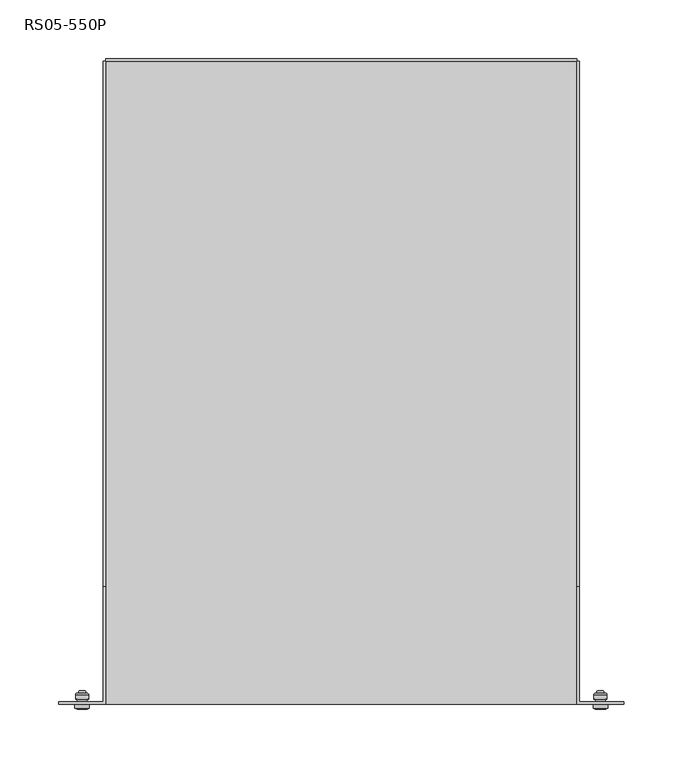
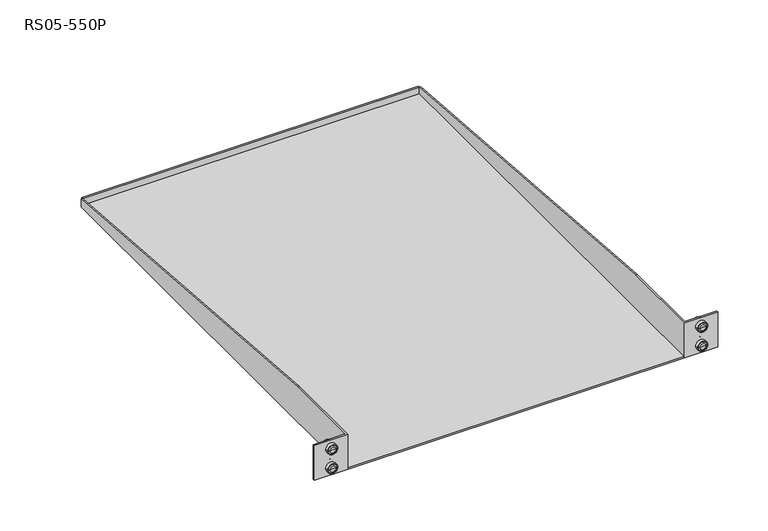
"""IFC4 building model written with IfcOpenShell, lengths in millimetres: proxy geometry, Полки консольные : RS05-550P."""

from ifc_helpers import new_model, si_unit, point, frame, origin, place, context, project, spatial, polyline, circle_curve, ellipse_curve, trimmed, outline, extrude, faceted_brep, source, transform, mapped, element, save
from ifc_brep_helpers import plane_surface, cylinder_surface, revolved_surface, advanced_brep


def rs05_550p_192c16dc(model_context):
    return source(origin(), model_context, "Body", "SolidModel", [
        advanced_brep(
        [(221.0, -279.3500066, 34.0), (217.5000052, -279.3500066, 34.0), (224.4999948, -279.3500066, 34.0), (223.9999986, -263.7499958, 34.0), (218.0000014, -263.7499958, 34.0), (221.0, -263.7499958, 34.0), (223.9999986, -265.7999933, 34.0), (218.0000014, -265.7999933, 34.0), (225.4999942, -265.7999933, 34.0), (216.5000058, -265.7999933, 34.0), (226.4999948, -266.7999994, 34.0), (215.5000052, -266.7999994, 34.0), (226.4999962, -270.7999994, 34.0), (215.5000038, -270.7999994, 34.0), (225.1733431, -272.9999959, 34.0), (216.8266569, -272.9999959, 34.0), (227.2500015, -275.0, 34.0), (214.7499985, -275.0, 34.0), (216.8266569, -275.0, 34.0), (225.1733431, -275.0, 34.0), (227.2500015, -278.4999996, 34.0), (214.7499985, -278.4999996, 34.0), (226.3781586, -278.4999996, 34.0), (215.6218414, -278.4999996, 34.0)],
        [
            (0, 1),
            (1, 2, circle_curve(frame((221.0, -279.3500066, 34.0), z_axis=(0.0, -1.0, 0.0), x_axis=(-1.0, 0.0, 0.0)), 3.4999948)),
            (2, 0),
            (2, 1, circle_curve(frame((221.0, -279.3500066, 34.0), z_axis=(0.0, -1.0, 0.0), x_axis=(-1.0, 0.0, 0.0)), 3.4999948)),
            (3, 4, circle_curve(frame((221.0, -263.7499958, 34.0), z_axis=(0.0, 1.0, 0.0), x_axis=(-1.0, 0.0, 0.0)), 2.9999986)),
            (4, 5),
            (5, 3),
            (4, 3, circle_curve(frame((221.0, -263.7499958, 34.0), z_axis=(0.0, 1.0, 0.0), x_axis=(-1.0, 0.0, 0.0)), 2.9999986)),
            (6, 7, circle_curve(frame((221.0, -265.7999933, 34.0), z_axis=(0.0, 1.0, 0.0), x_axis=(-1.0, 0.0, 0.0)), 2.9999986)),
            (7, 4),
            (3, 6),
            (7, 6, circle_curve(frame((221.0, -265.7999933, 34.0), z_axis=(0.0, 1.0, 0.0), x_axis=(-1.0, 0.0, 0.0)), 2.9999986)),
            (8, 9, circle_curve(frame((221.0, -265.7999933, 34.0), z_axis=(0.0, 1.0, 0.0), x_axis=(-1.0, 0.0, 0.0)), 4.4999942)),
            (9, 7),
            (6, 8),
            (9, 8, circle_curve(frame((221.0, -265.7999933, 34.0), z_axis=(0.0, 1.0, 0.0), x_axis=(-1.0, 0.0, 0.0)), 4.4999942)),
            (10, 11, circle_curve(frame((221.0, -266.7999994, 34.0), z_axis=(0.0, 1.0, 0.0), x_axis=(-1.0, 0.0, 0.0)), 5.4999948)),
            (11, 9, circle_curve(frame((216.5000052, -266.7999994, 34.0), z_axis=(0.0, 0.0, -1.0), x_axis=(1.0, 0.0, 0.0)), 1.0)),
            (8, 10, circle_curve(frame((225.4999948, -266.7999994, 34.0), z_axis=(0.0, 0.0, -1.0), x_axis=(-1.0, 0.0, 0.0)), 1.0)),
            (11, 10, circle_curve(frame((221.0, -266.7999994, 34.0), z_axis=(0.0, 1.0, 0.0), x_axis=(-1.0, 0.0, 0.0)), 5.4999948)),
            (12, 13, circle_curve(frame((221.0, -270.7999994, 34.0), z_axis=(0.0, 1.0, 0.0), x_axis=(-1.0, 0.0, 0.0)), 5.4999962)),
            (13, 11),
            (10, 12),
            (13, 12, circle_curve(frame((221.0, -270.7999994, 34.0), z_axis=(0.0, 1.0, 0.0), x_axis=(-1.0, 0.0, 0.0)), 5.4999962)),
            (14, 15, circle_curve(frame((221.0, -272.9999959, 34.0), z_axis=(0.0, 1.0, 0.0), x_axis=(-1.0, 0.0, 0.0)), 4.1733431)),
            (15, 13, circle_curve(frame((215.5000052, -272.2999994, 34.0), z_axis=(0.0, 0.0, 1.0), x_axis=(1.0, 0.0, 0.0)), 1.5)),
            (12, 14, circle_curve(frame((226.4999948, -272.2999994, 34.0), z_axis=(0.0, 0.0, 1.0), x_axis=(-1.0, 0.0, 0.0)), 1.5)),
            (15, 14, circle_curve(frame((221.0, -272.9999959, 34.0), z_axis=(0.0, 1.0, 0.0), x_axis=(-1.0, 0.0, 0.0)), 4.1733431)),
            (16, 17, circle_curve(frame((221.0, -275.0, 34.0), z_axis=(0.0, 1.0, 0.0), x_axis=(-1.0, 0.0, 0.0)), 6.2500015)),
            (17, 18),
            (18, 19, circle_curve(frame((221.0, -275.0, 34.0), z_axis=(0.0, -1.0, 0.0), x_axis=(-1.0, 0.0, 0.0)), 4.1733431)),
            (19, 16),
            (17, 16, circle_curve(frame((221.0, -275.0, 34.0), z_axis=(0.0, 1.0, 0.0), x_axis=(-1.0, 0.0, 0.0)), 6.2500015)),
            (19, 18, circle_curve(frame((221.0, -275.0, 34.0), z_axis=(0.0, -1.0, 0.0), x_axis=(-1.0, 0.0, 0.0)), 4.1733431)),
            (20, 21, circle_curve(frame((221.0, -278.4999996, 34.0), z_axis=(0.0, 1.0, 0.0), x_axis=(-1.0, 0.0, 0.0)), 6.2500015)),
            (21, 17),
            (16, 20),
            (21, 20, circle_curve(frame((221.0, -278.4999996, 34.0), z_axis=(0.0, 1.0, 0.0), x_axis=(-1.0, 0.0, 0.0)), 6.2500015)),
            (22, 23, circle_curve(frame((221.0, -278.4999996, 34.0), z_axis=(0.0, 1.0, 0.0), x_axis=(-1.0, 0.0, 0.0)), 5.3781586)),
            (23, 21),
            (20, 22),
            (23, 22, circle_curve(frame((221.0, -278.4999996, 34.0), z_axis=(0.0, 1.0, 0.0), x_axis=(-1.0, 0.0, 0.0)), 5.3781586)),
            (1, 23, circle_curve(frame((217.5000052, -276.8499994, 34.0), z_axis=(0.0, 0.0, -1.0), x_axis=(1.0, 0.0, 0.0)), 2.5)),
            (22, 2, circle_curve(frame((224.4999948, -276.8499994, 34.0), z_axis=(0.0, 0.0, -1.0), x_axis=(-1.0, 0.0, 0.0)), 2.5)),
            (18, 15),
            (14, 19),
        ],
        [
            plane_surface(frame((221.0, -279.3500066, 34.0), z_axis=(0.0, -1.0, 0.0), x_axis=(-1.0, 0.0, 0.0))),
            plane_surface(frame((221.0, -263.7499958, 34.0), z_axis=(0.0, 1.0, 0.0), x_axis=(-1.0, 0.0, 0.0))),
            cylinder_surface(frame((221.0, 1725.0, 34.0), z_axis=(0.0, -1.0, 0.0), x_axis=(-1.0, 0.0, 0.0)), 2.9999986),
            plane_surface(frame((221.0, -265.7999933, 34.0), z_axis=(0.0, 1.0, 0.0), x_axis=(-1.0, 0.0, 0.0))),
            revolved_surface(trimmed(ellipse_curve(frame((216.5000052, -266.7999994, 34.0), z_axis=(0.0, 0.0, 1.0), x_axis=(1.0, 0.0, 0.0)), 1.0, 1.0), [point((216.5000052, -265.7999994, 34.0))], [point((215.5000052, -266.7999994, 34.0))], True, "CARTESIAN"), (221.0, 1725.0, 34.0), (0.0, -1.0, 0.0)),
            cylinder_surface(frame((221.0, 1725.0, 34.0), z_axis=(0.0, -1.0, 0.0), x_axis=(-1.0, 0.0, 0.0)), 5.4999962),
            revolved_surface(trimmed(ellipse_curve(frame((215.5000052, -272.2999994, 34.0), z_axis=(0.0, 0.0, -1.0), x_axis=(1.0, 0.0, 0.0)), 1.5, 1.5), [point((215.5000038, -270.7999994, 34.0))], [point((216.8266569, -272.9999959, 34.0))], True, "CARTESIAN"), (221.0, 1725.0, 34.0), (0.0, -1.0, 0.0)),
            plane_surface(frame((221.0, -275.0, 34.0), z_axis=(0.0, 1.0, 0.0), x_axis=(-1.0, 0.0, 0.0))),
            cylinder_surface(frame((221.0, 1725.0, 34.0), z_axis=(0.0, -1.0, 0.0), x_axis=(-1.0, 0.0, 0.0)), 6.2500015),
            plane_surface(frame((221.0, -278.4999996, 34.0), z_axis=(0.0, -1.0, 0.0), x_axis=(-1.0, 0.0, 0.0))),
            revolved_surface(trimmed(ellipse_curve(frame((217.5000052, -276.8499994, 34.0), z_axis=(0.0, 0.0, 1.0), x_axis=(1.0, 0.0, 0.0)), 2.5, 2.5), [point((215.6218414, -278.4999996, 34.0))], [point((217.5000052, -279.3499994, 34.0))], True, "CARTESIAN"), (221.0, 1725.0, 34.0), (0.0, -1.0, 0.0)),
            cylinder_surface(frame((221.0, 1725.0, 34.0), z_axis=(0.0, -1.0, 0.0), x_axis=(-1.0, 0.0, 0.0)), 4.1733431),
        ],
        [
            (0, [[1, 2, 3]]),
            (0, [[-3, 4, -1]]),
            (1, [[5, 6, 7]]),
            (1, [[8, -7, -6]]),
            (2, [[9, 10, -5, 11]]),
            (2, [[12, -11, -8, -10]]),
            (3, [[13, 14, -9, 15]]),
            (3, [[16, -15, -12, -14]]),
            (4, [[17, 18, -13, 19]]),
            (4, [[20, -19, -16, -18]]),
            (5, [[21, 22, -17, 23]]),
            (5, [[24, -23, -20, -22]]),
            (6, [[25, 26, -21, 27]]),
            (6, [[28, -27, -24, -26]]),
            (7, [[29, 30, 31, 32]]),
            (7, [[33, -32, 34, -30]]),
            (8, [[35, 36, -29, 37]]),
            (8, [[38, -37, -33, -36]]),
            (9, [[39, 40, -35, 41]]),
            (9, [[42, -41, -38, -40]]),
            (10, [[-2, 43, -39, 44]]),
            (10, [[-4, -44, -42, -43]]),
            (11, [[-31, 45, -25, 46]]),
            (11, [[-34, -46, -28, -45]]),
        ],
    ),
        advanced_brep(
        [(-221.0, -279.3500066, 34.0), (-224.4999948, -279.3500066, 34.0), (-217.5000052, -279.3500066, 34.0), (-218.0000014, -263.7499958, 34.0), (-223.9999986, -263.7499958, 34.0), (-221.0, -263.7499958, 34.0), (-218.0000014, -265.7999933, 34.0), (-223.9999986, -265.7999933, 34.0), (-216.5000058, -265.7999933, 34.0), (-225.4999942, -265.7999933, 34.0), (-215.5000052, -266.7999994, 34.0), (-226.4999948, -266.7999994, 34.0), (-215.5000038, -270.7999994, 34.0), (-226.4999962, -270.7999994, 34.0), (-216.8266569, -272.9999959, 34.0), (-225.1733431, -272.9999959, 34.0), (-214.7499985, -275.0, 34.0), (-227.2500015, -275.0, 34.0), (-225.1733431, -275.0, 34.0), (-216.8266569, -275.0, 34.0), (-214.7499985, -278.4999996, 34.0), (-227.2500015, -278.4999996, 34.0), (-215.6218414, -278.4999996, 34.0), (-226.3781586, -278.4999996, 34.0)],
        [
            (0, 1),
            (1, 2, circle_curve(frame((-221.0, -279.3500066, 34.0), z_axis=(0.0, -1.0, 0.0), x_axis=(-1.0, 0.0, 0.0)), 3.4999948)),
            (2, 0),
            (2, 1, circle_curve(frame((-221.0, -279.3500066, 34.0), z_axis=(0.0, -1.0, 0.0), x_axis=(-1.0, 0.0, 0.0)), 3.4999948)),
            (3, 4, circle_curve(frame((-221.0, -263.7499958, 34.0), z_axis=(0.0, 1.0, 0.0), x_axis=(-1.0, 0.0, 0.0)), 2.9999986)),
            (4, 5),
            (5, 3),
            (4, 3, circle_curve(frame((-221.0, -263.7499958, 34.0), z_axis=(0.0, 1.0, 0.0), x_axis=(-1.0, 0.0, 0.0)), 2.9999986)),
            (6, 7, circle_curve(frame((-221.0, -265.7999933, 34.0), z_axis=(0.0, 1.0, 0.0), x_axis=(-1.0, 0.0, 0.0)), 2.9999986)),
            (7, 4),
            (3, 6),
            (7, 6, circle_curve(frame((-221.0, -265.7999933, 34.0), z_axis=(0.0, 1.0, 0.0), x_axis=(-1.0, 0.0, 0.0)), 2.9999986)),
            (8, 9, circle_curve(frame((-221.0, -265.7999933, 34.0), z_axis=(0.0, 1.0, 0.0), x_axis=(-1.0, 0.0, 0.0)), 4.4999942)),
            (9, 7),
            (6, 8),
            (9, 8, circle_curve(frame((-221.0, -265.7999933, 34.0), z_axis=(0.0, 1.0, 0.0), x_axis=(-1.0, 0.0, 0.0)), 4.4999942)),
            (10, 11, circle_curve(frame((-221.0, -266.7999994, 34.0), z_axis=(0.0, 1.0, 0.0), x_axis=(-1.0, 0.0, 0.0)), 5.4999948)),
            (11, 9, circle_curve(frame((-225.4999948, -266.7999994, 34.0), z_axis=(0.0, 0.0, -1.0), x_axis=(1.0, 0.0, 0.0)), 1.0)),
            (8, 10, circle_curve(frame((-216.5000052, -266.7999994, 34.0), z_axis=(0.0, 0.0, -1.0), x_axis=(-1.0, 0.0, 0.0)), 1.0)),
            (11, 10, circle_curve(frame((-221.0, -266.7999994, 34.0), z_axis=(0.0, 1.0, 0.0), x_axis=(-1.0, 0.0, 0.0)), 5.4999948)),
            (12, 13, circle_curve(frame((-221.0, -270.7999994, 34.0), z_axis=(0.0, 1.0, 0.0), x_axis=(-1.0, 0.0, 0.0)), 5.4999962)),
            (13, 11),
            (10, 12),
            (13, 12, circle_curve(frame((-221.0, -270.7999994, 34.0), z_axis=(0.0, 1.0, 0.0), x_axis=(-1.0, 0.0, 0.0)), 5.4999962)),
            (14, 15, circle_curve(frame((-221.0, -272.9999959, 34.0), z_axis=(0.0, 1.0, 0.0), x_axis=(-1.0, 0.0, 0.0)), 4.1733431)),
            (15, 13, circle_curve(frame((-226.4999948, -272.2999994, 34.0), z_axis=(0.0, 0.0, 1.0), x_axis=(1.0, 0.0, 0.0)), 1.5)),
            (12, 14, circle_curve(frame((-215.5000052, -272.2999994, 34.0), z_axis=(0.0, 0.0, 1.0), x_axis=(-1.0, 0.0, 0.0)), 1.5)),
            (15, 14, circle_curve(frame((-221.0, -272.9999959, 34.0), z_axis=(0.0, 1.0, 0.0), x_axis=(-1.0, 0.0, 0.0)), 4.1733431)),
            (16, 17, circle_curve(frame((-221.0, -275.0, 34.0), z_axis=(0.0, 1.0, 0.0), x_axis=(-1.0, 0.0, 0.0)), 6.2500015)),
            (17, 18),
            (18, 19, circle_curve(frame((-221.0, -275.0, 34.0), z_axis=(0.0, -1.0, 0.0), x_axis=(-1.0, 0.0, 0.0)), 4.1733431)),
            (19, 16),
            (17, 16, circle_curve(frame((-221.0, -275.0, 34.0), z_axis=(0.0, 1.0, 0.0), x_axis=(-1.0, 0.0, 0.0)), 6.2500015)),
            (19, 18, circle_curve(frame((-221.0, -275.0, 34.0), z_axis=(0.0, -1.0, 0.0), x_axis=(-1.0, 0.0, 0.0)), 4.1733431)),
            (20, 21, circle_curve(frame((-221.0, -278.4999996, 34.0), z_axis=(0.0, 1.0, 0.0), x_axis=(-1.0, 0.0, 0.0)), 6.2500015)),
            (21, 17),
            (16, 20),
            (21, 20, circle_curve(frame((-221.0, -278.4999996, 34.0), z_axis=(0.0, 1.0, 0.0), x_axis=(-1.0, 0.0, 0.0)), 6.2500015)),
            (22, 23, circle_curve(frame((-221.0, -278.4999996, 34.0), z_axis=(0.0, 1.0, 0.0), x_axis=(-1.0, 0.0, 0.0)), 5.3781586)),
            (23, 21),
            (20, 22),
            (23, 22, circle_curve(frame((-221.0, -278.4999996, 34.0), z_axis=(0.0, 1.0, 0.0), x_axis=(-1.0, 0.0, 0.0)), 5.3781586)),
            (1, 23, circle_curve(frame((-224.4999948, -276.8499994, 34.0), z_axis=(0.0, 0.0, -1.0), x_axis=(1.0, 0.0, 0.0)), 2.5)),
            (22, 2, circle_curve(frame((-217.5000052, -276.8499994, 34.0), z_axis=(0.0, 0.0, -1.0), x_axis=(-1.0, 0.0, 0.0)), 2.5)),
            (18, 15),
            (14, 19),
        ],
        [
            plane_surface(frame((-221.0, -279.3500066, 34.0), z_axis=(0.0, -1.0, 0.0), x_axis=(-1.0, 0.0, 0.0))),
            plane_surface(frame((-221.0, -263.7499958, 34.0), z_axis=(0.0, 1.0, 0.0), x_axis=(-1.0, 0.0, 0.0))),
            cylinder_surface(frame((-221.0, 1725.0, 34.0), z_axis=(0.0, -1.0, 0.0), x_axis=(-1.0, 0.0, 0.0)), 2.9999986),
            plane_surface(frame((-221.0, -265.7999933, 34.0), z_axis=(0.0, 1.0, 0.0), x_axis=(-1.0, 0.0, 0.0))),
            revolved_surface(trimmed(ellipse_curve(frame((-225.4999948, -266.7999994, 34.0), z_axis=(0.0, 0.0, 1.0), x_axis=(1.0, 0.0, 0.0)), 1.0, 1.0), [point((-225.4999948, -265.7999994, 34.0))], [point((-226.4999948, -266.7999994, 34.0))], True, "CARTESIAN"), (-221.0, 1725.0, 34.0), (0.0, -1.0, 0.0)),
            cylinder_surface(frame((-221.0, 1725.0, 34.0), z_axis=(0.0, -1.0, 0.0), x_axis=(-1.0, 0.0, 0.0)), 5.4999962),
            revolved_surface(trimmed(ellipse_curve(frame((-226.4999948, -272.2999994, 34.0), z_axis=(0.0, 0.0, -1.0), x_axis=(1.0, 0.0, 0.0)), 1.5, 1.5), [point((-226.4999962, -270.7999994, 34.0))], [point((-225.1733431, -272.9999959, 34.0))], True, "CARTESIAN"), (-221.0, 1725.0, 34.0), (0.0, -1.0, 0.0)),
            plane_surface(frame((-221.0, -275.0, 34.0), z_axis=(0.0, 1.0, 0.0), x_axis=(-1.0, 0.0, 0.0))),
            cylinder_surface(frame((-221.0, 1725.0, 34.0), z_axis=(0.0, -1.0, 0.0), x_axis=(-1.0, 0.0, 0.0)), 6.2500015),
            plane_surface(frame((-221.0, -278.4999996, 34.0), z_axis=(0.0, -1.0, 0.0), x_axis=(-1.0, 0.0, 0.0))),
            revolved_surface(trimmed(ellipse_curve(frame((-224.4999948, -276.8499994, 34.0), z_axis=(0.0, 0.0, 1.0), x_axis=(1.0, 0.0, 0.0)), 2.5, 2.5), [point((-226.3781586, -278.4999996, 34.0))], [point((-224.4999948, -279.3499994, 34.0))], True, "CARTESIAN"), (-221.0, 1725.0, 34.0), (0.0, -1.0, 0.0)),
            cylinder_surface(frame((-221.0, 1725.0, 34.0), z_axis=(0.0, -1.0, 0.0), x_axis=(-1.0, 0.0, 0.0)), 4.1733431),
        ],
        [
            (0, [[1, 2, 3]]),
            (0, [[-3, 4, -1]]),
            (1, [[5, 6, 7]]),
            (1, [[8, -7, -6]]),
            (2, [[9, 10, -5, 11]]),
            (2, [[12, -11, -8, -10]]),
            (3, [[13, 14, -9, 15]]),
            (3, [[16, -15, -12, -14]]),
            (4, [[17, 18, -13, 19]]),
            (4, [[20, -19, -16, -18]]),
            (5, [[21, 22, -17, 23]]),
            (5, [[24, -23, -20, -22]]),
            (6, [[25, 26, -21, 27]]),
            (6, [[28, -27, -24, -26]]),
            (7, [[29, 30, 31, 32]]),
            (7, [[33, -32, 34, -30]]),
            (8, [[35, 36, -29, 37]]),
            (8, [[38, -37, -33, -36]]),
            (9, [[39, 40, -35, 41]]),
            (9, [[42, -41, -38, -40]]),
            (10, [[-2, 43, -39, 44]]),
            (10, [[-4, -44, -42, -43]]),
            (11, [[-31, 45, -25, 46]]),
            (11, [[-34, -46, -28, -45]]),
        ],
    ),
        advanced_brep(
        [(221.0, -279.3500066, 10.0), (217.5000052, -279.3500066, 10.0), (224.4999948, -279.3500066, 10.0), (223.9999986, -263.7499958, 10.0), (218.0000014, -263.7499958, 10.0), (221.0, -263.7499958, 10.0), (223.9999986, -265.7999933, 10.0), (218.0000014, -265.7999933, 10.0), (225.4999942, -265.7999933, 10.0), (216.5000058, -265.7999933, 10.0), (226.4999948, -266.7999994, 10.0), (215.5000052, -266.7999994, 10.0), (226.4999962, -270.7999994, 10.0), (215.5000038, -270.7999994, 10.0), (225.1733431, -272.9999959, 10.0), (216.8266569, -272.9999959, 10.0), (227.2500015, -275.0, 10.0), (214.7499985, -275.0, 10.0), (216.8266569, -275.0, 10.0), (225.1733431, -275.0, 10.0), (227.2500015, -278.4999996, 10.0), (214.7499985, -278.4999996, 10.0), (226.3781586, -278.4999996, 10.0), (215.6218414, -278.4999996, 10.0)],
        [
            (0, 1),
            (1, 2, circle_curve(frame((221.0, -279.3500066, 10.0), z_axis=(0.0, -1.0, 0.0), x_axis=(-1.0, 0.0, 0.0)), 3.4999948)),
            (2, 0),
            (2, 1, circle_curve(frame((221.0, -279.3500066, 10.0), z_axis=(0.0, -1.0, 0.0), x_axis=(-1.0, 0.0, 0.0)), 3.4999948)),
            (3, 4, circle_curve(frame((221.0, -263.7499958, 10.0), z_axis=(0.0, 1.0, 0.0), x_axis=(-1.0, 0.0, 0.0)), 2.9999986)),
            (4, 5),
            (5, 3),
            (4, 3, circle_curve(frame((221.0, -263.7499958, 10.0), z_axis=(0.0, 1.0, 0.0), x_axis=(-1.0, 0.0, 0.0)), 2.9999986)),
            (6, 7, circle_curve(frame((221.0, -265.7999933, 10.0), z_axis=(0.0, 1.0, 0.0), x_axis=(-1.0, 0.0, 0.0)), 2.9999986)),
            (7, 4),
            (3, 6),
            (7, 6, circle_curve(frame((221.0, -265.7999933, 10.0), z_axis=(0.0, 1.0, 0.0), x_axis=(-1.0, 0.0, 0.0)), 2.9999986)),
            (8, 9, circle_curve(frame((221.0, -265.7999933, 10.0), z_axis=(0.0, 1.0, 0.0), x_axis=(-1.0, 0.0, 0.0)), 4.4999942)),
            (9, 7),
            (6, 8),
            (9, 8, circle_curve(frame((221.0, -265.7999933, 10.0), z_axis=(0.0, 1.0, 0.0), x_axis=(-1.0, 0.0, 0.0)), 4.4999942)),
            (10, 11, circle_curve(frame((221.0, -266.7999994, 10.0), z_axis=(0.0, 1.0, 0.0), x_axis=(-1.0, 0.0, 0.0)), 5.4999948)),
            (11, 9, circle_curve(frame((216.5000052, -266.7999994, 10.0), z_axis=(0.0, 0.0, -1.0), x_axis=(1.0, 0.0, 0.0)), 1.0)),
            (8, 10, circle_curve(frame((225.4999948, -266.7999994, 10.0), z_axis=(0.0, 0.0, -1.0), x_axis=(-1.0, 0.0, 0.0)), 1.0)),
            (11, 10, circle_curve(frame((221.0, -266.7999994, 10.0), z_axis=(0.0, 1.0, 0.0), x_axis=(-1.0, 0.0, 0.0)), 5.4999948)),
            (12, 13, circle_curve(frame((221.0, -270.7999994, 10.0), z_axis=(0.0, 1.0, 0.0), x_axis=(-1.0, 0.0, 0.0)), 5.4999962)),
            (13, 11),
            (10, 12),
            (13, 12, circle_curve(frame((221.0, -270.7999994, 10.0), z_axis=(0.0, 1.0, 0.0), x_axis=(-1.0, 0.0, 0.0)), 5.4999962)),
            (14, 15, circle_curve(frame((221.0, -272.9999959, 10.0), z_axis=(0.0, 1.0, 0.0), x_axis=(-1.0, 0.0, 0.0)), 4.1733431)),
            (15, 13, circle_curve(frame((215.5000052, -272.2999994, 10.0), z_axis=(0.0, 0.0, 1.0), x_axis=(1.0, 0.0, 0.0)), 1.5)),
            (12, 14, circle_curve(frame((226.4999948, -272.2999994, 10.0), z_axis=(0.0, 0.0, 1.0), x_axis=(-1.0, 0.0, 0.0)), 1.5)),
            (15, 14, circle_curve(frame((221.0, -272.9999959, 10.0), z_axis=(0.0, 1.0, 0.0), x_axis=(-1.0, 0.0, 0.0)), 4.1733431)),
            (16, 17, circle_curve(frame((221.0, -275.0, 10.0), z_axis=(0.0, 1.0, 0.0), x_axis=(-1.0, 0.0, 0.0)), 6.2500015)),
            (17, 18),
            (18, 19, circle_curve(frame((221.0, -275.0, 10.0), z_axis=(0.0, -1.0, 0.0), x_axis=(-1.0, 0.0, 0.0)), 4.1733431)),
            (19, 16),
            (17, 16, circle_curve(frame((221.0, -275.0, 10.0), z_axis=(0.0, 1.0, 0.0), x_axis=(-1.0, 0.0, 0.0)), 6.2500015)),
            (19, 18, circle_curve(frame((221.0, -275.0, 10.0), z_axis=(0.0, -1.0, 0.0), x_axis=(-1.0, 0.0, 0.0)), 4.1733431)),
            (20, 21, circle_curve(frame((221.0, -278.4999996, 10.0), z_axis=(0.0, 1.0, 0.0), x_axis=(-1.0, 0.0, 0.0)), 6.2500015)),
            (21, 17),
            (16, 20),
            (21, 20, circle_curve(frame((221.0, -278.4999996, 10.0), z_axis=(0.0, 1.0, 0.0), x_axis=(-1.0, 0.0, 0.0)), 6.2500015)),
            (22, 23, circle_curve(frame((221.0, -278.4999996, 10.0), z_axis=(0.0, 1.0, 0.0), x_axis=(-1.0, 0.0, 0.0)), 5.3781586)),
            (23, 21),
            (20, 22),
            (23, 22, circle_curve(frame((221.0, -278.4999996, 10.0), z_axis=(0.0, 1.0, 0.0), x_axis=(-1.0, 0.0, 0.0)), 5.3781586)),
            (1, 23, circle_curve(frame((217.5000052, -276.8499994, 10.0), z_axis=(0.0, 0.0, -1.0), x_axis=(1.0, 0.0, 0.0)), 2.5)),
            (22, 2, circle_curve(frame((224.4999948, -276.8499994, 10.0), z_axis=(0.0, 0.0, -1.0), x_axis=(-1.0, 0.0, 0.0)), 2.5)),
            (18, 15),
            (14, 19),
        ],
        [
            plane_surface(frame((221.0, -279.3500066, 10.0), z_axis=(0.0, -1.0, 0.0), x_axis=(-1.0, 0.0, 0.0))),
            plane_surface(frame((221.0, -263.7499958, 10.0), z_axis=(0.0, 1.0, 0.0), x_axis=(-1.0, 0.0, 0.0))),
            cylinder_surface(frame((221.0, 1725.0, 10.0), z_axis=(0.0, -1.0, 0.0), x_axis=(-1.0, 0.0, 0.0)), 2.9999986),
            plane_surface(frame((221.0, -265.7999933, 10.0), z_axis=(0.0, 1.0, 0.0), x_axis=(-1.0, 0.0, 0.0))),
            revolved_surface(trimmed(ellipse_curve(frame((216.5000052, -266.7999994, 10.0), z_axis=(0.0, 0.0, 1.0), x_axis=(1.0, 0.0, 0.0)), 1.0, 1.0), [point((216.5000052, -265.7999994, 10.0))], [point((215.5000052, -266.7999994, 10.0))], True, "CARTESIAN"), (221.0, 1725.0, 10.0), (0.0, -1.0, 0.0)),
            cylinder_surface(frame((221.0, 1725.0, 10.0), z_axis=(0.0, -1.0, 0.0), x_axis=(-1.0, 0.0, 0.0)), 5.4999962),
            revolved_surface(trimmed(ellipse_curve(frame((215.5000052, -272.2999994, 10.0), z_axis=(0.0, 0.0, -1.0), x_axis=(1.0, 0.0, 0.0)), 1.5, 1.5), [point((215.5000038, -270.7999994, 10.0))], [point((216.8266569, -272.9999959, 10.0))], True, "CARTESIAN"), (221.0, 1725.0, 10.0), (0.0, -1.0, 0.0)),
            plane_surface(frame((221.0, -275.0, 10.0), z_axis=(0.0, 1.0, 0.0), x_axis=(-1.0, 0.0, 0.0))),
            cylinder_surface(frame((221.0, 1725.0, 10.0), z_axis=(0.0, -1.0, 0.0), x_axis=(-1.0, 0.0, 0.0)), 6.2500015),
            plane_surface(frame((221.0, -278.4999996, 10.0), z_axis=(0.0, -1.0, 0.0), x_axis=(-1.0, 0.0, 0.0))),
            revolved_surface(trimmed(ellipse_curve(frame((217.5000052, -276.8499994, 10.0), z_axis=(0.0, 0.0, 1.0), x_axis=(1.0, 0.0, 0.0)), 2.5, 2.5), [point((215.6218414, -278.4999996, 10.0))], [point((217.5000052, -279.3499994, 10.0))], True, "CARTESIAN"), (221.0, 1725.0, 10.0), (0.0, -1.0, 0.0)),
            cylinder_surface(frame((221.0, 1725.0, 10.0), z_axis=(0.0, -1.0, 0.0), x_axis=(-1.0, 0.0, 0.0)), 4.1733431),
        ],
        [
            (0, [[1, 2, 3]]),
            (0, [[-3, 4, -1]]),
            (1, [[5, 6, 7]]),
            (1, [[8, -7, -6]]),
            (2, [[9, 10, -5, 11]]),
            (2, [[12, -11, -8, -10]]),
            (3, [[13, 14, -9, 15]]),
            (3, [[16, -15, -12, -14]]),
            (4, [[17, 18, -13, 19]]),
            (4, [[20, -19, -16, -18]]),
            (5, [[21, 22, -17, 23]]),
            (5, [[24, -23, -20, -22]]),
            (6, [[25, 26, -21, 27]]),
            (6, [[28, -27, -24, -26]]),
            (7, [[29, 30, 31, 32]]),
            (7, [[33, -32, 34, -30]]),
            (8, [[35, 36, -29, 37]]),
            (8, [[38, -37, -33, -36]]),
            (9, [[39, 40, -35, 41]]),
            (9, [[42, -41, -38, -40]]),
            (10, [[-2, 43, -39, 44]]),
            (10, [[-4, -44, -42, -43]]),
            (11, [[-31, 45, -25, 46]]),
            (11, [[-34, -46, -28, -45]]),
        ],
    ),
        advanced_brep(
        [(-221.0, -279.3500066, 10.0), (-224.4999948, -279.3500066, 10.0), (-217.5000052, -279.3500066, 10.0), (-218.0000014, -263.7499958, 10.0), (-223.9999986, -263.7499958, 10.0), (-221.0, -263.7499958, 10.0), (-218.0000014, -265.7999933, 10.0), (-223.9999986, -265.7999933, 10.0), (-216.5000058, -265.7999933, 10.0), (-225.4999942, -265.7999933, 10.0), (-215.5000052, -266.7999994, 10.0), (-226.4999948, -266.7999994, 10.0), (-215.5000038, -270.7999994, 10.0), (-226.4999962, -270.7999994, 10.0), (-216.8266569, -272.9999959, 10.0), (-225.1733431, -272.9999959, 10.0), (-214.7499985, -275.0, 10.0), (-227.2500015, -275.0, 10.0), (-225.1733431, -275.0, 10.0), (-216.8266569, -275.0, 10.0), (-214.7499985, -278.4999996, 10.0), (-227.2500015, -278.4999996, 10.0), (-215.6218414, -278.4999996, 10.0), (-226.3781586, -278.4999996, 10.0)],
        [
            (0, 1),
            (1, 2, circle_curve(frame((-221.0, -279.3500066, 10.0), z_axis=(0.0, -1.0, 0.0), x_axis=(-1.0, 0.0, 0.0)), 3.4999948)),
            (2, 0),
            (2, 1, circle_curve(frame((-221.0, -279.3500066, 10.0), z_axis=(0.0, -1.0, 0.0), x_axis=(-1.0, 0.0, 0.0)), 3.4999948)),
            (3, 4, circle_curve(frame((-221.0, -263.7499958, 10.0), z_axis=(0.0, 1.0, 0.0), x_axis=(-1.0, 0.0, 0.0)), 2.9999986)),
            (4, 5),
            (5, 3),
            (4, 3, circle_curve(frame((-221.0, -263.7499958, 10.0), z_axis=(0.0, 1.0, 0.0), x_axis=(-1.0, 0.0, 0.0)), 2.9999986)),
            (6, 7, circle_curve(frame((-221.0, -265.7999933, 10.0), z_axis=(0.0, 1.0, 0.0), x_axis=(-1.0, 0.0, 0.0)), 2.9999986)),
            (7, 4),
            (3, 6),
            (7, 6, circle_curve(frame((-221.0, -265.7999933, 10.0), z_axis=(0.0, 1.0, 0.0), x_axis=(-1.0, 0.0, 0.0)), 2.9999986)),
            (8, 9, circle_curve(frame((-221.0, -265.7999933, 10.0), z_axis=(0.0, 1.0, 0.0), x_axis=(-1.0, 0.0, 0.0)), 4.4999942)),
            (9, 7),
            (6, 8),
            (9, 8, circle_curve(frame((-221.0, -265.7999933, 10.0), z_axis=(0.0, 1.0, 0.0), x_axis=(-1.0, 0.0, 0.0)), 4.4999942)),
            (10, 11, circle_curve(frame((-221.0, -266.7999994, 10.0), z_axis=(0.0, 1.0, 0.0), x_axis=(-1.0, 0.0, 0.0)), 5.4999948)),
            (11, 9, circle_curve(frame((-225.4999948, -266.7999994, 10.0), z_axis=(0.0, 0.0, -1.0), x_axis=(1.0, 0.0, 0.0)), 1.0)),
            (8, 10, circle_curve(frame((-216.5000052, -266.7999994, 10.0), z_axis=(0.0, 0.0, -1.0), x_axis=(-1.0, 0.0, 0.0)), 1.0)),
            (11, 10, circle_curve(frame((-221.0, -266.7999994, 10.0), z_axis=(0.0, 1.0, 0.0), x_axis=(-1.0, 0.0, 0.0)), 5.4999948)),
            (12, 13, circle_curve(frame((-221.0, -270.7999994, 10.0), z_axis=(0.0, 1.0, 0.0), x_axis=(-1.0, 0.0, 0.0)), 5.4999962)),
            (13, 11),
            (10, 12),
            (13, 12, circle_curve(frame((-221.0, -270.7999994, 10.0), z_axis=(0.0, 1.0, 0.0), x_axis=(-1.0, 0.0, 0.0)), 5.4999962)),
            (14, 15, circle_curve(frame((-221.0, -272.9999959, 10.0), z_axis=(0.0, 1.0, 0.0), x_axis=(-1.0, 0.0, 0.0)), 4.1733431)),
            (15, 13, circle_curve(frame((-226.4999948, -272.2999994, 10.0), z_axis=(0.0, 0.0, 1.0), x_axis=(1.0, 0.0, 0.0)), 1.5)),
            (12, 14, circle_curve(frame((-215.5000052, -272.2999994, 10.0), z_axis=(0.0, 0.0, 1.0), x_axis=(-1.0, 0.0, 0.0)), 1.5)),
            (15, 14, circle_curve(frame((-221.0, -272.9999959, 10.0), z_axis=(0.0, 1.0, 0.0), x_axis=(-1.0, 0.0, 0.0)), 4.1733431)),
            (16, 17, circle_curve(frame((-221.0, -275.0, 10.0), z_axis=(0.0, 1.0, 0.0), x_axis=(-1.0, 0.0, 0.0)), 6.2500015)),
            (17, 18),
            (18, 19, circle_curve(frame((-221.0, -275.0, 10.0), z_axis=(0.0, -1.0, 0.0), x_axis=(-1.0, 0.0, 0.0)), 4.1733431)),
            (19, 16),
            (17, 16, circle_curve(frame((-221.0, -275.0, 10.0), z_axis=(0.0, 1.0, 0.0), x_axis=(-1.0, 0.0, 0.0)), 6.2500015)),
            (19, 18, circle_curve(frame((-221.0, -275.0, 10.0), z_axis=(0.0, -1.0, 0.0), x_axis=(-1.0, 0.0, 0.0)), 4.1733431)),
            (20, 21, circle_curve(frame((-221.0, -278.4999996, 10.0), z_axis=(0.0, 1.0, 0.0), x_axis=(-1.0, 0.0, 0.0)), 6.2500015)),
            (21, 17),
            (16, 20),
            (21, 20, circle_curve(frame((-221.0, -278.4999996, 10.0), z_axis=(0.0, 1.0, 0.0), x_axis=(-1.0, 0.0, 0.0)), 6.2500015)),
            (22, 23, circle_curve(frame((-221.0, -278.4999996, 10.0), z_axis=(0.0, 1.0, 0.0), x_axis=(-1.0, 0.0, 0.0)), 5.3781586)),
            (23, 21),
            (20, 22),
            (23, 22, circle_curve(frame((-221.0, -278.4999996, 10.0), z_axis=(0.0, 1.0, 0.0), x_axis=(-1.0, 0.0, 0.0)), 5.3781586)),
            (1, 23, circle_curve(frame((-224.4999948, -276.8499994, 10.0), z_axis=(0.0, 0.0, -1.0), x_axis=(1.0, 0.0, 0.0)), 2.5)),
            (22, 2, circle_curve(frame((-217.5000052, -276.8499994, 10.0), z_axis=(0.0, 0.0, -1.0), x_axis=(-1.0, 0.0, 0.0)), 2.5)),
            (18, 15),
            (14, 19),
        ],
        [
            plane_surface(frame((-221.0, -279.3500066, 10.0), z_axis=(0.0, -1.0, 0.0), x_axis=(-1.0, 0.0, 0.0))),
            plane_surface(frame((-221.0, -263.7499958, 10.0), z_axis=(0.0, 1.0, 0.0), x_axis=(-1.0, 0.0, 0.0))),
            cylinder_surface(frame((-221.0, 1725.0, 10.0), z_axis=(0.0, -1.0, 0.0), x_axis=(-1.0, 0.0, 0.0)), 2.9999986),
            plane_surface(frame((-221.0, -265.7999933, 10.0), z_axis=(0.0, 1.0, 0.0), x_axis=(-1.0, 0.0, 0.0))),
            revolved_surface(trimmed(ellipse_curve(frame((-225.4999948, -266.7999994, 10.0), z_axis=(0.0, 0.0, 1.0), x_axis=(1.0, 0.0, 0.0)), 1.0, 1.0), [point((-225.4999948, -265.7999994, 10.0))], [point((-226.4999948, -266.7999994, 10.0))], True, "CARTESIAN"), (-221.0, 1725.0, 10.0), (0.0, -1.0, 0.0)),
            cylinder_surface(frame((-221.0, 1725.0, 10.0), z_axis=(0.0, -1.0, 0.0), x_axis=(-1.0, 0.0, 0.0)), 5.4999962),
            revolved_surface(trimmed(ellipse_curve(frame((-226.4999948, -272.2999994, 10.0), z_axis=(0.0, 0.0, -1.0), x_axis=(1.0, 0.0, 0.0)), 1.5, 1.5), [point((-226.4999962, -270.7999994, 10.0))], [point((-225.1733431, -272.9999959, 10.0))], True, "CARTESIAN"), (-221.0, 1725.0, 10.0), (0.0, -1.0, 0.0)),
            plane_surface(frame((-221.0, -275.0, 10.0), z_axis=(0.0, 1.0, 0.0), x_axis=(-1.0, 0.0, 0.0))),
            cylinder_surface(frame((-221.0, 1725.0, 10.0), z_axis=(0.0, -1.0, 0.0), x_axis=(-1.0, 0.0, 0.0)), 6.2500015),
            plane_surface(frame((-221.0, -278.4999996, 10.0), z_axis=(0.0, -1.0, 0.0), x_axis=(-1.0, 0.0, 0.0))),
            revolved_surface(trimmed(ellipse_curve(frame((-224.4999948, -276.8499994, 10.0), z_axis=(0.0, 0.0, 1.0), x_axis=(1.0, 0.0, 0.0)), 2.5, 2.5), [point((-226.3781586, -278.4999996, 10.0))], [point((-224.4999948, -279.3499994, 10.0))], True, "CARTESIAN"), (-221.0, 1725.0, 10.0), (0.0, -1.0, 0.0)),
            cylinder_surface(frame((-221.0, 1725.0, 10.0), z_axis=(0.0, -1.0, 0.0), x_axis=(-1.0, 0.0, 0.0)), 4.1733431),
        ],
        [
            (0, [[1, 2, 3]]),
            (0, [[-3, 4, -1]]),
            (1, [[5, 6, 7]]),
            (1, [[8, -7, -6]]),
            (2, [[9, 10, -5, 11]]),
            (2, [[12, -11, -8, -10]]),
            (3, [[13, 14, -9, 15]]),
            (3, [[16, -15, -12, -14]]),
            (4, [[17, 18, -13, 19]]),
            (4, [[20, -19, -16, -18]]),
            (5, [[21, 22, -17, 23]]),
            (5, [[24, -23, -20, -22]]),
            (6, [[25, 26, -21, 27]]),
            (6, [[28, -27, -24, -26]]),
            (7, [[29, 30, 31, 32]]),
            (7, [[33, -32, 34, -30]]),
            (8, [[35, 36, -29, 37]]),
            (8, [[38, -37, -33, -36]]),
            (9, [[39, 40, -35, 41]]),
            (9, [[42, -41, -38, -40]]),
            (10, [[-2, 43, -39, 44]]),
            (10, [[-4, -44, -42, -43]]),
            (11, [[-31, 45, -25, 46]]),
            (11, [[-34, -46, -28, -45]]),
        ],
    ),
        faceted_brep([(-201.0, 273.0, 0.0), (-201.0, 273.0, 10.0), (-201.0, -175.0, 44.0), (-201.0, -275.0, 44.0), (-201.0, -275.0, 0.0), (-203.0, -175.0, 44.0), (-203.0, 273.0, 10.0), (-203.0, 273.0, 0.0), (-203.0, -273.0, 0.0), (-203.0, -273.0, 44.0), (-241.0, -273.0, 44.0), (-241.0, -275.0, 44.0), (-241.0, -275.0, 0.0), (-241.0, -273.0, 0.0)], [[[0, 1, 2, 3, 4]], [[5, 6, 7, 8, 9]], [[1, 0, 7, 6]], [[3, 2, 5, 9, 10, 11]], [[4, 3, 11, 12]], [[0, 4, 12, 13, 8, 7]], [[2, 1, 6, 5]], [[10, 9, 8, 13]], [[11, 10, 13, 12]]]),
        faceted_brep([(241.0, -273.0, 44.0), (203.0, -273.0, 44.0), (203.0, -175.0, 44.0), (201.0, -175.0, 44.0), (201.0, -275.0, 44.0), (241.0, -275.0, 44.0), (241.0, -273.0, 0.0), (241.0, -275.0, 0.0), (201.0, -275.0, 0.0), (201.0, 273.0, 0.0), (203.0, 273.0, 0.0), (203.0, -273.0, 0.0), (201.0, 273.0, 10.0), (203.0, 273.0, 10.0)], [[[0, 1, 2, 3, 4, 5]], [[6, 7, 8, 9, 10, 11]], [[1, 0, 6, 11]], [[5, 4, 8, 7]], [[0, 5, 7, 6]], [[9, 8, 4, 3, 12]], [[10, 13, 2, 1, 11]], [[9, 12, 13, 10]], [[12, 3, 2, 13]]]),
        extrude(outline(polyline([(-275.0, 2.0), (273.0, 2.0), (273.0, 10.0), (275.0, 10.0), (275.0, 0.0), (-275.0, 0.0), (-275.0, 2.0)])), frame((-201.0, 0.0, 0.0), z_axis=(1.0, 0.0, 0.0), x_axis=(0.0, 1.0, 0.0)), (0.0, 0.0, 1.0), 402.0),
    ])


if __name__ == "__main__":
    model = new_model("IFC4")
    model_context = context("Model", 3, world=origin())
    ifc_project = project(units=[si_unit("LENGTHUNIT", "METRE", prefix="MILLI")], contexts=[model_context])
    site = spatial("IfcSite", under=ifc_project)
    building = spatial("IfcBuilding", under=site)
    placement = place(None, origin())
    rs05_550p_shape = rs05_550p_192c16dc(model_context)
    element("IfcBuildingElementProxy", 1, Name="Полки консольные : RS05-550P", ObjectType="Полки консольные : RS05-550P", at=placement, inside=building, context=model_context, shape_type="MappedRepresentation", body=[
        mapped(rs05_550p_shape, transform((0.0, 0.0, 0.0), x_axis=(1.0, 0.0, 0.0), y_axis=(0.0, 1.0, 0.0), z_axis=(0.0, 0.0, 1.0))),
    ])
    save(model, "model.ifc")
